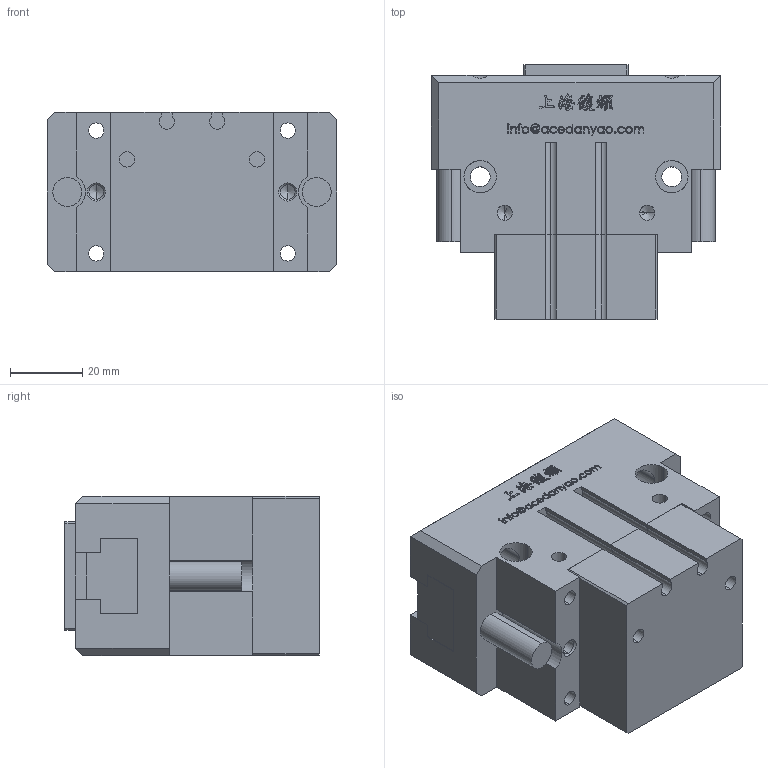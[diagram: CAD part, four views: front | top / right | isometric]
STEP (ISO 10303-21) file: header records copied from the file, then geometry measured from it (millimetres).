
FILE_DESCRIPTION (( 'STEP AP203' ), '1' );
FILE_NAME ('OPP2-80-C2-MC&MA-原始檔-組合-W106.04.19.STEP', '2017-04-19T01:19:12', ( 'DanyaoCAD' ), ( '' ), 'SwSTEP 2.0', 'SolidWorks 2016', '' );
FILE_SCHEMA (( 'CONFIG_CONTROL_DESIGN' ));
Length unit declared in the file: millimetre
Products named in the file (5): Griffa; Fondello; Corpo; Coperchio; OPP2-80-C2-MC&MA-原始檔-組合-W106.04.19
Assembly tree (5 placements, depth 2):
  OPP2-80-C2-MC&MA-原始檔-組合-W106.04.19
    Griffa  x2
    Fondello
    Corpo
    Coperchio
Bounding box: 80 x 70.4 x 44 mm (x, y, z)
Volume: 160460.7 mm3; surface area: 49347.8 mm2
Topology: 5 solids, 5 shells, 1052 faces, 2940 edges, 1938 vertices
Faces by surface type: bspline 640, plane 266, cylinder 98, cone 48
Entity records: 50016 total; most frequent: CARTESIAN_POINT 27493, ORIENTED_EDGE 5686, EDGE_CURVE 2843, DIRECTION 2525, VERTEX_POINT 1888, VECTOR 1325, LINE 1325, B_SPLINE_CURVE_WITH_KNOTS 1302
